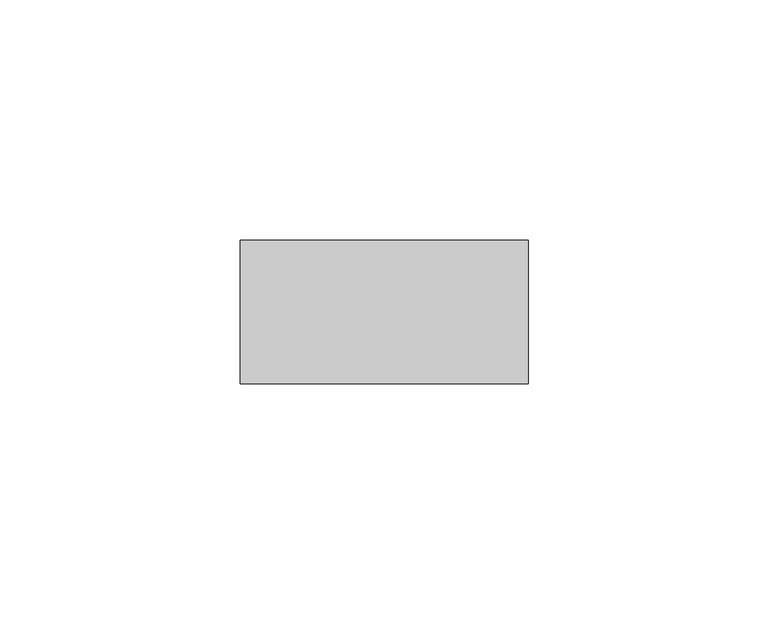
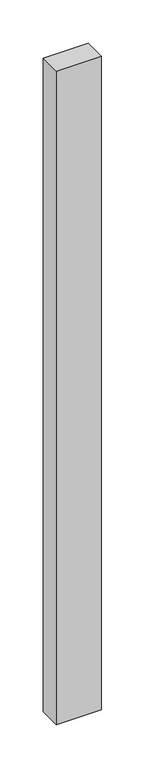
"""IFC4 building model written with IfcOpenShell, lengths in millimetres: member geometry, Прямоугольный импост : Квадрат 30 мм."""

from ifc_helpers import new_model, si_unit, frame, origin, place, context, project, spatial, polyline, outline, extrude, source, transform, mapped, element, save


def member_dde9ef97(model_context):
    return source(origin(), model_context, "Body", "SweptSolid", [
        extrude(outline(polyline([(30.0, 15.0), (30.0, -15.0), (-30.0, -15.0), (-30.0, 15.0), (30.0, 15.0)])), frame((0.0, 0.0, -920.0), z_axis=(0.0, 0.0, 1.0), x_axis=(1.0, 0.0, 0.0)), (0.0, 0.0, 1.0), 920.0),
    ])


if __name__ == "__main__":
    model = new_model("IFC4")
    model_context = context("Model", 3, world=origin())
    ifc_project = project(units=[si_unit("LENGTHUNIT", "METRE", prefix="MILLI")], contexts=[model_context])
    site = spatial("IfcSite", under=ifc_project)
    building = spatial("IfcBuilding", under=site)
    placement = place(None, origin())
    member_shape = member_dde9ef97(model_context)
    element("IfcMember", 1, ObjectType="Прямоугольный импост : Квадрат 30 мм", at=placement, inside=building, context=model_context, shape_type="MappedRepresentation", body=[
        mapped(member_shape, transform((0.0, 0.0, 0.0), x_axis=(1.0, 0.0, 0.0), y_axis=(0.0, 1.0, 0.0), z_axis=(0.0, 0.0, 1.0))),
    ])
    save(model, "model.ifc")
